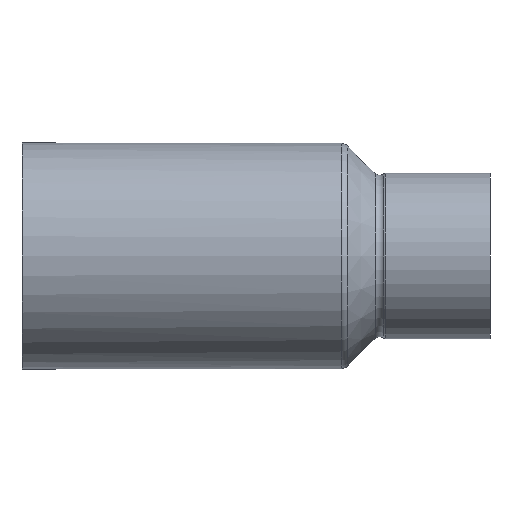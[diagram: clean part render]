
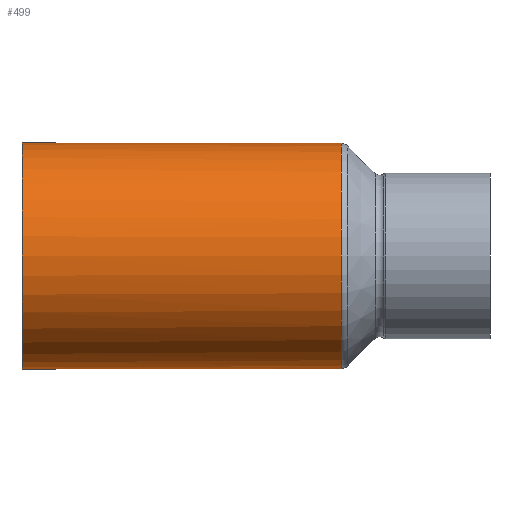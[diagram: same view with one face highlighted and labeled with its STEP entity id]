
A CAD part, front view. The second image highlights one B-rep face of the part: STEP entity #499.
In plain terms, the highlighted cylindrical face has radius 12.075 mm (diameter 24.15 mm), a full revolution.
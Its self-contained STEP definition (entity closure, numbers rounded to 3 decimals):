
#34=B_SPLINE_CURVE_WITH_KNOTS('',3,(#903,#904,#905,#906,#907,#908,#909,
#910,#911,#912,#913,#914,#915),.UNSPECIFIED.,.F.,.F.,(4,3,3,3,4),(-4.95,
-4.773,-4.596,-4.243,-4.215),
 .UNSPECIFIED.);
#35=B_SPLINE_CURVE_WITH_KNOTS('',3,(#917,#918,#919,#920,#921,#922),
 .UNSPECIFIED.,.F.,.F.,(4,1,1,4),(-0.686,-0.354,
-0.177,0.),.UNSPECIFIED.);
#36=B_SPLINE_CURVE_WITH_KNOTS('',3,(#924,#925,#926,#927,#928,#929,#930,
#931,#932),.UNSPECIFIED.,.F.,.F.,(4,1,1,1,1,1,4),(-1.788,-1.65,
-1.414,-1.061,-0.884,-0.707,
-0.686),.UNSPECIFIED.);
#37=B_SPLINE_CURVE_WITH_KNOTS('',3,(#933,#934,#935,#936,#937,#938,#939,
#940,#941,#942,#943,#944,#945,#946,#947,#948,#949,#950,#951,#952,#953,#954),
 .UNSPECIFIED.,.F.,.F.,(4,3,3,3,3,3,3,4),(-3.209,-3.064,
-2.828,-2.593,-2.357,-2.121,
-1.886,-1.788),.UNSPECIFIED.);
#57=LINE('',#956,#68);
#68=VECTOR('',#669,12.075);
#79=CYLINDRICAL_SURFACE('',#569,12.075);
#94=FACE_OUTER_BOUND('',#124,.T.);
#124=EDGE_LOOP('',(#360,#361,#362,#363,#364,#365,#366,#367,#368));
#167=CIRCLE('',#567,12.075);
#168=CIRCLE('',#568,12.075);
#169=CIRCLE('',#570,12.075);
#207=VERTEX_POINT('',#829);
#211=VERTEX_POINT('',#836);
#212=VERTEX_POINT('',#838);
#213=VERTEX_POINT('',#902);
#214=VERTEX_POINT('',#916);
#215=VERTEX_POINT('',#923);
#216=VERTEX_POINT('',#955);
#266=EDGE_CURVE('',#211,#212,#167,.T.);
#267=EDGE_CURVE('',#212,#207,#168,.T.);
#270=EDGE_CURVE('',#213,#211,#34,.T.);
#271=EDGE_CURVE('',#214,#213,#35,.T.);
#272=EDGE_CURVE('',#215,#214,#36,.T.);
#273=EDGE_CURVE('',#207,#215,#37,.T.);
#274=EDGE_CURVE('',#212,#216,#57,.T.);
#275=EDGE_CURVE('',#216,#216,#169,.T.);
#360=ORIENTED_EDGE('',*,*,#266,.F.);
#361=ORIENTED_EDGE('',*,*,#270,.F.);
#362=ORIENTED_EDGE('',*,*,#271,.F.);
#363=ORIENTED_EDGE('',*,*,#272,.F.);
#364=ORIENTED_EDGE('',*,*,#273,.F.);
#365=ORIENTED_EDGE('',*,*,#267,.F.);
#366=ORIENTED_EDGE('',*,*,#274,.T.);
#367=ORIENTED_EDGE('',*,*,#275,.T.);
#368=ORIENTED_EDGE('',*,*,#274,.F.);
#499=ADVANCED_FACE('',(#94),#79,.T.);
#567=AXIS2_PLACEMENT_3D('',#839,#663,#664);
#568=AXIS2_PLACEMENT_3D('',#840,#665,#666);
#569=AXIS2_PLACEMENT_3D('',#901,#667,#668);
#570=AXIS2_PLACEMENT_3D('',#957,#670,#671);
#663=DIRECTION('center_axis',(1.,0.,0.));
#664=DIRECTION('ref_axis',(0.,-1.,0.));
#665=DIRECTION('center_axis',(1.,0.,0.));
#666=DIRECTION('ref_axis',(0.,-1.,0.));
#667=DIRECTION('center_axis',(1.,0.,0.));
#668=DIRECTION('ref_axis',(0.,1.,0.));
#669=DIRECTION('',(-1.,0.,0.));
#670=DIRECTION('center_axis',(1.,0.,0.));
#671=DIRECTION('ref_axis',(0.,1.,0.));
#829=CARTESIAN_POINT('',(9.087,10.831,-5.336));
#836=CARTESIAN_POINT('',(9.085,10.831,5.339));
#838=CARTESIAN_POINT('',(9.086,-12.075,0.));
#839=CARTESIAN_POINT('Origin',(9.086,0.,0.));
#840=CARTESIAN_POINT('Origin',(9.086,0.,0.));
#901=CARTESIAN_POINT('Origin',(0.,0.,0.));
#902=CARTESIAN_POINT('',(0.,8.228,8.838));
#903=CARTESIAN_POINT('Ctrl Pts',(0.,8.228,
8.838));
#904=CARTESIAN_POINT('Ctrl Pts',(0.887,8.228,8.838));
#905=CARTESIAN_POINT('Ctrl Pts',(1.777,8.318,8.756));
#906=CARTESIAN_POINT('Ctrl Pts',(2.621,8.474,8.602));
#907=CARTESIAN_POINT('Ctrl Pts',(3.466,8.631,8.447));
#908=CARTESIAN_POINT('Ctrl Pts',(4.266,8.853,8.22));
#909=CARTESIAN_POINT('Ctrl Pts',(5.014,9.101,7.936));
#910=CARTESIAN_POINT('Ctrl Pts',(6.511,9.597,7.368));
#911=CARTESIAN_POINT('Ctrl Pts',(7.801,10.191,6.572));
#912=CARTESIAN_POINT('Ctrl Pts',(8.843,10.71,5.577));
#913=CARTESIAN_POINT('Ctrl Pts',(8.925,10.751,5.499));
#914=CARTESIAN_POINT('Ctrl Pts',(9.005,10.791,5.42));
#915=CARTESIAN_POINT('Ctrl Pts',(9.084,10.831,5.339));
#916=CARTESIAN_POINT('',(-8.659,10.62,5.749));
#917=CARTESIAN_POINT('Ctrl Pts',(-8.659,10.62,5.749));
#918=CARTESIAN_POINT('Ctrl Pts',(-7.652,10.125,6.663));
#919=CARTESIAN_POINT('Ctrl Pts',(-5.77,9.271,7.794));
#920=CARTESIAN_POINT('Ctrl Pts',(-2.668,8.409,8.674));
#921=CARTESIAN_POINT('Ctrl Pts',(-0.887,8.228,8.838));
#922=CARTESIAN_POINT('Ctrl Pts',(0.,8.228,
8.838));
#923=CARTESIAN_POINT('',(-8.661,10.619,-5.747));
#924=CARTESIAN_POINT('Ctrl Pts',(-8.661,10.619,-5.747));
#925=CARTESIAN_POINT('Ctrl Pts',(-9.08,10.824,-5.367));
#926=CARTESIAN_POINT('Ctrl Pts',(-10.109,11.353,-4.259));
#927=CARTESIAN_POINT('Ctrl Pts',(-11.493,12.125,-1.686));
#928=CARTESIAN_POINT('Ctrl Pts',(-11.501,12.132,1.434));
#929=CARTESIAN_POINT('Ctrl Pts',(-10.284,11.449,3.978));
#930=CARTESIAN_POINT('Ctrl Pts',(-9.315,10.944,5.138));
#931=CARTESIAN_POINT('Ctrl Pts',(-8.724,10.651,5.69));
#932=CARTESIAN_POINT('Ctrl Pts',(-8.659,10.62,5.749));
#933=CARTESIAN_POINT('Ctrl Pts',(9.088,10.83,-5.335));
#934=CARTESIAN_POINT('Ctrl Pts',(8.676,10.623,-5.757));
#935=CARTESIAN_POINT('Ctrl Pts',(8.219,10.402,-6.146));
#936=CARTESIAN_POINT('Ctrl Pts',(7.726,10.178,-6.499));
#937=CARTESIAN_POINT('Ctrl Pts',(6.925,9.812,-7.073));
#938=CARTESIAN_POINT('Ctrl Pts',(6.027,9.437,-7.552));
#939=CARTESIAN_POINT('Ctrl Pts',(5.029,9.105,-7.931));
#940=CARTESIAN_POINT('Ctrl Pts',(4.03,8.773,-8.311));
#941=CARTESIAN_POINT('Ctrl Pts',(2.932,8.485,-8.591));
#942=CARTESIAN_POINT('Ctrl Pts',(1.774,8.34,-8.731));
#943=CARTESIAN_POINT('Ctrl Pts',(0.616,8.196,-8.872));
#944=CARTESIAN_POINT('Ctrl Pts',(-0.602,8.195,-8.871));
#945=CARTESIAN_POINT('Ctrl Pts',(-1.759,8.338,-8.733));
#946=CARTESIAN_POINT('Ctrl Pts',(-2.916,8.481,-8.594));
#947=CARTESIAN_POINT('Ctrl Pts',(-4.011,8.768,-8.318));
#948=CARTESIAN_POINT('Ctrl Pts',(-5.011,9.1,-7.938));
#949=CARTESIAN_POINT('Ctrl Pts',(-6.011,9.431,-7.559));
#950=CARTESIAN_POINT('Ctrl Pts',(-6.916,9.808,-7.076));
#951=CARTESIAN_POINT('Ctrl Pts',(-7.719,10.174,-6.503));
#952=CARTESIAN_POINT('Ctrl Pts',(-8.051,10.325,-6.267));
#953=CARTESIAN_POINT('Ctrl Pts',(-8.366,10.475,-6.014));
#954=CARTESIAN_POINT('Ctrl Pts',(-8.661,10.619,-5.747));
#955=CARTESIAN_POINT('',(-25.,-12.075,0.));
#956=CARTESIAN_POINT('',(0.,-12.075,0.));
#957=CARTESIAN_POINT('Origin',(-25.,0.,0.));
